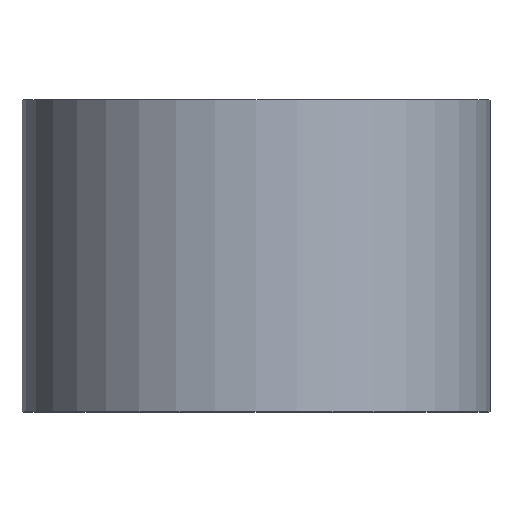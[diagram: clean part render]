
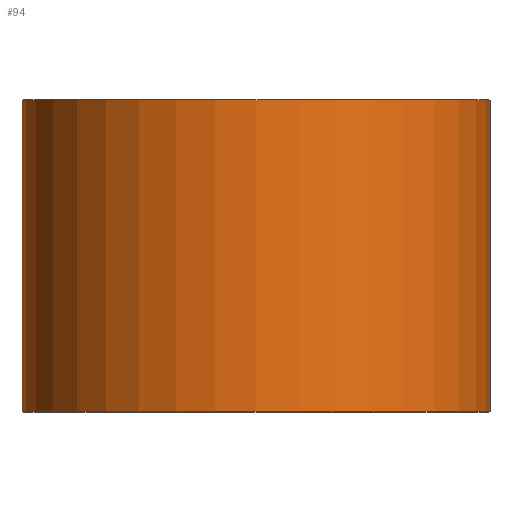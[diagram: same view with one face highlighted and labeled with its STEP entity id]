
A CAD part, top view. The second image highlights one B-rep face of the part: STEP entity #94.
In plain terms, the highlighted cylindrical face has radius 9 mm (diameter 18 mm), a partial arc.
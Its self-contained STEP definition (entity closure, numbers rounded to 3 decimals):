
#36 = VERTEX_POINT ( 'NONE', #44 ) ;
#39 = FACE_OUTER_BOUND ( 'NONE', #112, .T. ) ;
#44 = CARTESIAN_POINT ( 'NONE',  ( 9., 0., 0. ) ) ;
#70 = VERTEX_POINT ( 'NONE', #205 ) ;
#82 = DIRECTION ( 'NONE',  ( 0., 1., 0. ) ) ;
#85 = DIRECTION ( 'NONE',  ( -1., 0., 0. ) ) ;
#94 = ADVANCED_FACE ( 'NONE', ( #39 ), #263, .T. ) ;
#98 = VECTOR ( 'NONE', #253, 1000. ) ;
#103 = CIRCLE ( 'NONE', #105, 9. ) ;
#105 = AXIS2_PLACEMENT_3D ( 'NONE', #137, #175, #85 ) ;
#107 = ORIENTED_EDGE ( 'NONE', *, *, #120, .F. ) ;
#109 = DIRECTION ( 'NONE',  ( -1., 0., 0. ) ) ;
#112 = EDGE_LOOP ( 'NONE', ( #160, #196, #107, #290 ) ) ;
#116 = CARTESIAN_POINT ( 'NONE',  ( 9., 12., 0. ) ) ;
#117 = CARTESIAN_POINT ( 'NONE',  ( 9., 0., 0. ) ) ;
#119 = CARTESIAN_POINT ( 'NONE',  ( -9., 12., 0. ) ) ;
#120 = EDGE_CURVE ( 'NONE', #204, #237, #103, .T. ) ;
#136 = AXIS2_PLACEMENT_3D ( 'NONE', #183, #213, #301 ) ;
#137 = CARTESIAN_POINT ( 'NONE',  ( 0., 12., 0. ) ) ;
#158 = CARTESIAN_POINT ( 'NONE',  ( 0., 0., 0. ) ) ;
#160 = ORIENTED_EDGE ( 'NONE', *, *, #218, .T. ) ;
#168 = AXIS2_PLACEMENT_3D ( 'NONE', #158, #82, #109 ) ;
#175 = DIRECTION ( 'NONE',  ( 0., 1., 0. ) ) ;
#183 = CARTESIAN_POINT ( 'NONE',  ( 0., 0., 0. ) ) ;
#196 = ORIENTED_EDGE ( 'NONE', *, *, #223, .T. ) ;
#204 = VERTEX_POINT ( 'NONE', #119 ) ;
#205 = CARTESIAN_POINT ( 'NONE',  ( -9., 0., 0. ) ) ;
#213 = DIRECTION ( 'NONE',  ( 0., 1., 0. ) ) ;
#218 = EDGE_CURVE ( 'NONE', #70, #36, #222, .T. ) ;
#222 = CIRCLE ( 'NONE', #136, 9. ) ;
#223 = EDGE_CURVE ( 'NONE', #36, #237, #240, .T. ) ;
#237 = VERTEX_POINT ( 'NONE', #116 ) ;
#238 = CARTESIAN_POINT ( 'NONE',  ( -9., 0., 0. ) ) ;
#240 = LINE ( 'NONE', #117, #98 ) ;
#245 = LINE ( 'NONE', #238, #262 ) ;
#253 = DIRECTION ( 'NONE',  ( 0., 1., 0. ) ) ;
#259 = EDGE_CURVE ( 'NONE', #70, #204, #245, .T. ) ;
#262 = VECTOR ( 'NONE', #283, 1000. ) ;
#263 = CYLINDRICAL_SURFACE ( 'NONE', #168, 9. ) ;
#283 = DIRECTION ( 'NONE',  ( 0., 1., 0. ) ) ;
#290 = ORIENTED_EDGE ( 'NONE', *, *, #259, .F. ) ;
#301 = DIRECTION ( 'NONE',  ( -1., 0., 0. ) ) ;
